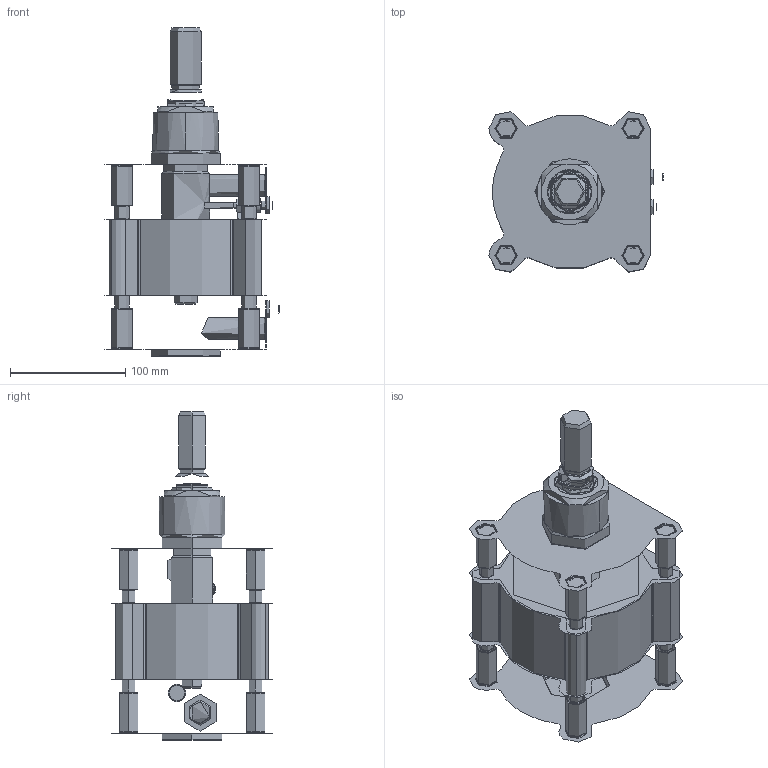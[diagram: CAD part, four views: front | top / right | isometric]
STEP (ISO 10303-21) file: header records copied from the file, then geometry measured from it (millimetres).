
FILE_DESCRIPTION(('STEP AP214'),'1');
FILE_NAME('81MVD125AJ0000.stp','2016-07-26T08:16:49',(' '),(' '),'Spatial InterOp 3D',' ',' ');
FILE_SCHEMA(('automotive_design'));
Length unit declared in the file: millimetre
Products named in the file (5): 81MVD125AJ0000; KP348 + 349 - 81MVD125AJA0000; STELO-000; TP; TUB125VD
Assembly tree (4 placements, depth 2):
  81MVD125AJ0000
    KP348 + 349 - 81MVD125AJA0000
    STELO-000
    TP
    TUB125VD
Bounding box: 151.1 x 138.84 x 285 mm (x, y, z)
Topology: 6 solids, 225 shells, 741 faces, 1410 edges, 952 vertices
Faces by surface type: cone 268, cylinder 228, plane 197, torus 46, revolution 2
Full cylindrical faces by diameter (mm): 7 x4, 10 x24, 30 x12, 31 x2, 134 x8
Entity records: 27741 total; most frequent: CARTESIAN_POINT 4282, DIRECTION 3990, ORIENTED_EDGE 3460, EDGE_CURVE 1730, AXIS2_PLACEMENT_3D 1618, VERTEX_POINT 1060, CIRCLE 876, EDGE_LOOP 824
